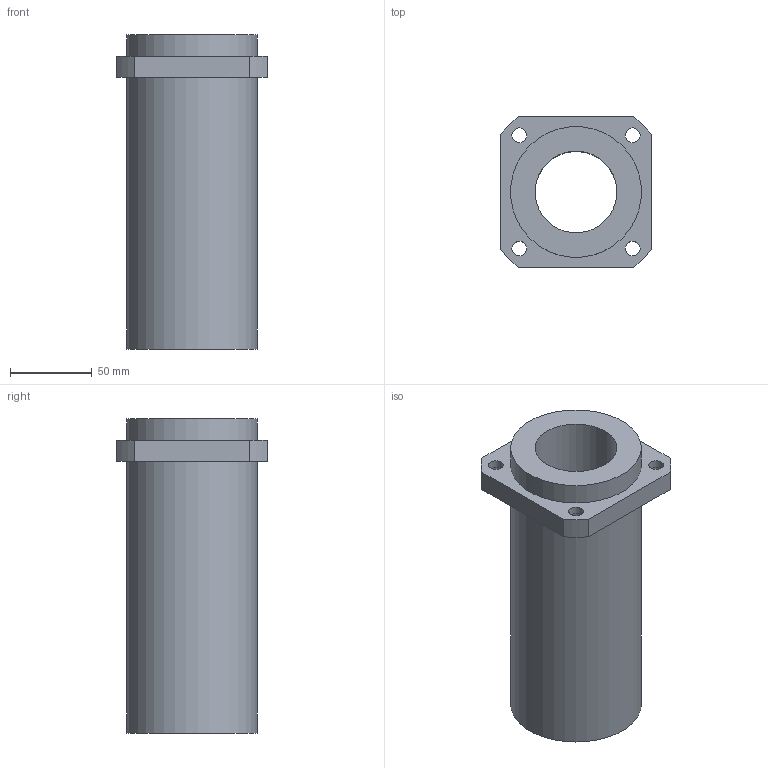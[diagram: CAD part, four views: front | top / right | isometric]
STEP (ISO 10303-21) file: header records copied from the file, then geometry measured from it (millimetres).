
FILE_DESCRIPTION(/* description */ (''),/* implementation_level */ '2;1');
FILE_NAME(/* name */ 'LMKP50LUU',/* time_stamp */ '2019-07-10T14:02:51+02:00',/* author */ ('VĂ©gh MĂˇtĂ©'),/* organization */ ('Bearing Kft'),/* preprocessor_version */ 'ST-DEVELOPER v16.7',/* originating_system */ 'DEX',/* authorisation */ $);
FILE_SCHEMA (('AUTOMOTIVE_DESIGN {1 0 10303 214 3 1 1}'));
Length unit declared in the file: millimetre
Products named in the file (1): LMKP50LUU
Bounding box: 92 x 92 x 192 mm (x, y, z)
Volume: 623852.5 mm3; surface area: 93681.3 mm2
Topology: 1 solids, 1 shells, 344 faces, 865 edges, 578 vertices
Faces by surface type: plane 266, bspline 61, cylinder 17
Full cylindrical faces by diameter (mm): 9 x4, 14 x4, 50 x1, 80 x2
Entity records: 13095 total; most frequent: CARTESIAN_POINT 5229, ORIENTED_EDGE 1694, DIRECTION 1327, EDGE_CURVE 847, LINE 691, VECTOR 691, VERTEX_POINT 574, EDGE_LOOP 423
